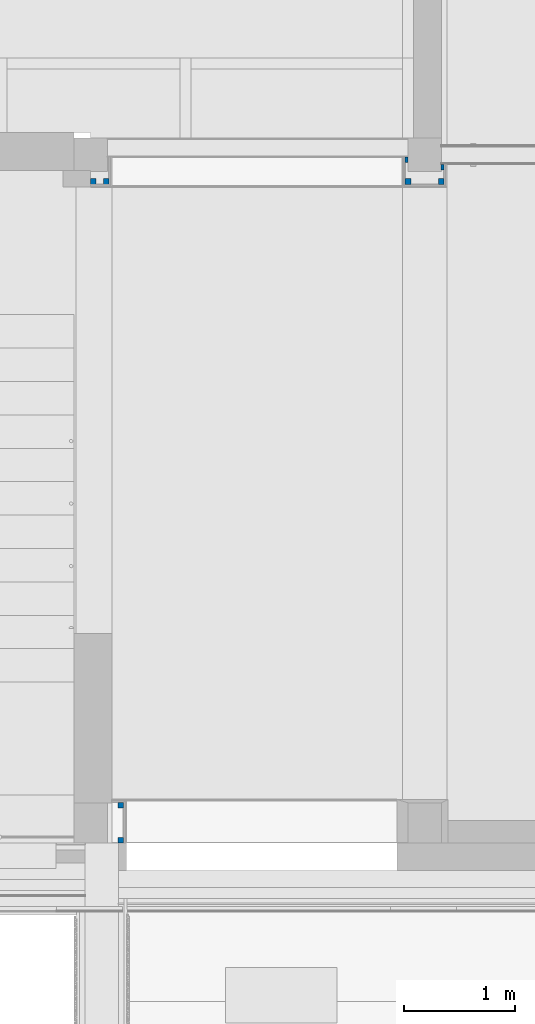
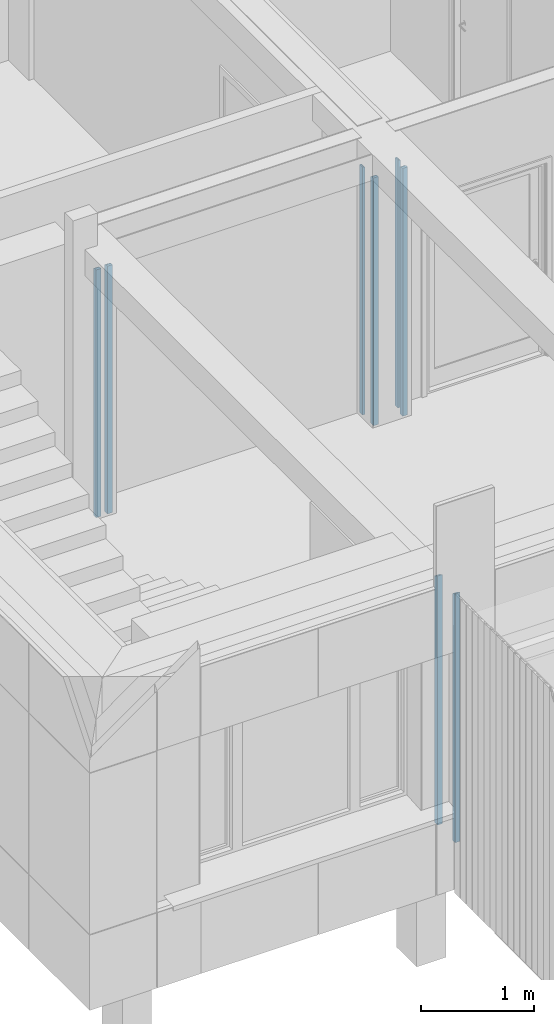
# One storey, part 73 of 418: 8 columns.
"""IFC2X3 building model written with IfcOpenShell, lengths in millimetres."""

from ifc_helpers import new_model, entity, si_unit, converted_unit, derived_unit, money_unit, direction, frame, origin_with_axes, origin_2d_with_axis, place, context, subcontext, project, spatial, rectangle, extrude, boolean, faceted_brep, material, type_object, element, save


model = new_model("IFC2X3")

# Units and contexts
model_context = context("Model", 3, precision=0.01, world=origin_with_axes(), true_north=direction((0.0, 1.0)))
body_context = subcontext(model_context, "Body", "Model", "MODEL_VIEW")
ifc_project = project(units=[si_unit("LENGTHUNIT", "METRE", prefix="MILLI"), si_unit("AREAUNIT", "SQUARE_METRE"), si_unit("VOLUMEUNIT", "CUBIC_METRE"), converted_unit("PLANEANGLEUNIT", "DEGREE", entity("IfcPlaneAngleMeasure", 0.0174532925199), si_unit("PLANEANGLEUNIT", "RADIAN"), dimensions=[0, 0, 0, 0, 0, 0, 0]), si_unit("SOLIDANGLEUNIT", "STERADIAN"), money_unit("EUR"), converted_unit("TIMEUNIT", "Year", entity("IfcTimeMeasure", 31556926.0), si_unit("TIMEUNIT", "SECOND"), dimensions=[0, 0, 1, 0, 0, 0, 0]), si_unit("MASSUNIT", "GRAM", prefix="KILO"), si_unit("THERMODYNAMICTEMPERATUREUNIT", "DEGREE_CELSIUS"), si_unit("LUMINOUSINTENSITYUNIT", "LUMEN"), si_unit("ENERGYUNIT", "JOULE", prefix="MEGA"), derived_unit("THERMALCONDUCTANCEUNIT", [(si_unit("POWERUNIT", "WATT"), 1), (si_unit("LENGTHUNIT", "METRE"), -1), (si_unit("THERMODYNAMICTEMPERATUREUNIT", "KELVIN"), -1)]), derived_unit("SPECIFICHEATCAPACITYUNIT", [(si_unit("ENERGYUNIT", "JOULE"), 1), (si_unit("MASSUNIT", "GRAM", prefix="KILO"), -1), (si_unit("THERMODYNAMICTEMPERATUREUNIT", "KELVIN"), -1)]), derived_unit("MASSDENSITYUNIT", [(si_unit("MASSUNIT", "GRAM", prefix="KILO"), 1), (si_unit("VOLUMEUNIT", "CUBIC_METRE"), -1)])], contexts=[model_context])

# Site, building, storey
site_placement = place(None, origin_with_axes())
site = spatial("IfcSite", under=ifc_project, at=site_placement, Name="Paldiski mnt 245/1, Tallinn, Harjumaa", CompositionType="COMPLEX")
building_placement = place(site_placement, origin_with_axes())
building = spatial("IfcBuilding", under=site, at=building_placement, Name="RKAS Hoone üldnimetus (kasutust iseloomustav) -> IFC Project Manager -> SOLIBRI", CompositionType="ELEMENT")
storey_placement = place(building_placement, origin_with_axes())
storey = spatial("IfcBuildingStorey", under=building, at=storey_placement, Name="Esimene korrus", CompositionType="ELEMENT", Elevation=0.0)

# Columns
ifc_material = material(Name="Puit konstruktsioon")
column_type_1 = type_object("IfcColumnType", Name="Puit konstruktsioon 50 x 50", PredefinedType="COLUMN")
for number, where, z_axis, x_axis in (
    (1, (-44171.5, -12171.0840871, 0.0), (0.0, 0.0, 1.0), (1.0, 0.0, 0.0)),
    (2, (-44171.5, -12485.0843011, 0.0), (0.0, 0.0, 1.0), (1.0, 0.0, 0.0)),
):
    element("IfcColumn", number, at=place(storey_placement, frame(where, z_axis=z_axis, x_axis=x_axis)), inside=storey, type_object=column_type_1, material=ifc_material, Name="Teraspost", ObjectType="COLUMN", context=body_context, shape_type="CSG", body=[
        boolean("DIFFERENCE", extrude(rectangle(XDim=50.0, YDim=50.0, at=origin_2d_with_axis()), origin_with_axes(), (0.0, 0.0, 1.0), 2682.97323395), faceted_brep([(25.0, -25.0, 2682.95323395), (25.0, 25.0, 2657.04676605), (25.0, 25.0, 2682.97323395), (25.0, -25.0, 2682.97323395), (-25.0, 25.0, 2657.04676605), (-25.0, -25.0, 2682.95323395), (-25.0, 25.0, 2682.97323395), (-25.0, -25.0, 2682.97323395)], [[[0, 1, 2, 3]], [[4, 1, 0, 5]], [[1, 4, 6, 2]], [[7, 3, 2, 6]], [[5, 0, 3, 7]], [[4, 5, 7, 6]]])),
    ])
for number, where, z_axis, x_axis in (
    (3, (-41291.0, -6569.08408706, 0.0), (0.0, 0.0, 1.0), (1.0, 0.0, 0.0)),
    (4, (-41589.0, -6569.08408706, 0.0), (0.0, 0.0, 1.0), (1.0, 0.0, 0.0)),
    (5, (-44415.0, -6569.08408706, 0.0), (0.0, 0.0, 1.0), (1.0, 0.0, 0.0)),
    (6, (-44301.0, -6569.08408706, 0.0), (0.0, 0.0, 1.0), (1.0, 0.0, 0.0)),
):
    element("IfcColumn", number, at=place(storey_placement, frame(where, z_axis=z_axis, x_axis=x_axis)), inside=storey, type_object=column_type_1, material=ifc_material, Name="Teraspost", ObjectType="COLUMN", context=body_context, shape_type="CSG", body=[
        boolean("DIFFERENCE", extrude(rectangle(XDim=50.0, YDim=50.0, at=origin_2d_with_axis()), origin_with_axes(), (0.0, 0.0, 1.0), 2670.0), faceted_brep([(25.0, 0.0, 2670.0), (25.0, 25.0, 2657.04676605), (25.0, 25.0, 2670.0), (-25.0, 25.0, 2657.04676605), (-25.0, 0.0, 2670.0), (-25.0, 25.0, 2670.0)], [[[0, 1, 2]], [[3, 1, 0, 4]], [[1, 3, 5, 2]], [[4, 0, 2, 5]], [[3, 4, 5]]])),
    ])
column_type_2 = type_object("IfcColumnType", Name="Puit konstruktsioon 50 x 25", PredefinedType="COLUMN")
for number, where, z_axis, x_axis in (
    (7, (-41278.5, -6440.0, 0.0), (0.0, 0.0, 1.0), (0.0, -1.0, 0.0)),
    (8, (-41601.5, -6375.0, 0.0), (0.0, 0.0, 1.0), (0.0, -1.0, 0.0)),
):
    element("IfcColumn", number, at=place(storey_placement, frame(where, z_axis=z_axis, x_axis=x_axis)), inside=storey, type_object=column_type_2, material=ifc_material, Name="Teraspost", ObjectType="COLUMN", context=body_context, shape_type="CSG", body=[
        boolean("DIFFERENCE", extrude(rectangle(XDim=50.0, YDim=25.0, at=origin_2d_with_axis()), origin_with_axes(), (0.0, 0.0, 1.0), 2670.0), faceted_brep([(25.0, 12.5, 2663.52338302), (-25.0, 12.5, 2663.52338302), (-25.0, 12.5, 2670.0), (25.0, 12.5, 2670.0), (-25.0, 0.0, 2670.0), (25.0, 0.0, 2670.0)], [[[0, 1, 2, 3]], [[4, 1, 0, 5]], [[1, 4, 2]], [[4, 5, 3, 2]], [[5, 0, 3]]])),
    ])

save(model, "model.ifc")
